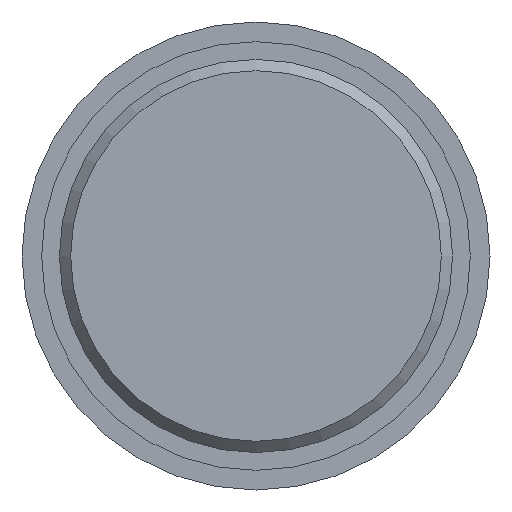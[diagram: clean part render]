
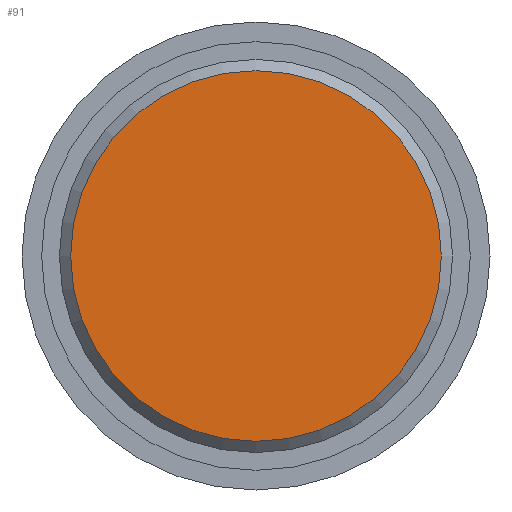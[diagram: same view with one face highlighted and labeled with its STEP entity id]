
A CAD part, front view. The second image highlights one B-rep face of the part: STEP entity #91.
In plain terms, the highlighted planar face has unit normal (0, -1, 0).
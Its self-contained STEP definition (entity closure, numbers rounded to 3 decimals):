
#91 = ADVANCED_FACE( '', ( #138 ), #139, .F. );
#138 = FACE_OUTER_BOUND( '', #193, .T. );
#139 = PLANE( '', #194 );
#193 = EDGE_LOOP( '', ( #308 ) );
#194 = AXIS2_PLACEMENT_3D( '', #309, #310, #311 );
#308 = ORIENTED_EDGE( '', *, *, #359, .T. );
#309 = CARTESIAN_POINT( '', ( 19.8, 0., 0. ) );
#310 = DIRECTION( '', ( 0., 1., 0. ) );
#311 = DIRECTION( '', ( 0., 0., 1. ) );
#359 = EDGE_CURVE( '', #411, #411, #412, .T. );
#411 = VERTEX_POINT( '', #485 );
#412 = CIRCLE( '', #486, 19.8 );
#485 = CARTESIAN_POINT( '', ( 0., 0., -19.8 ) );
#486 = AXIS2_PLACEMENT_3D( '', #538, #539, #540 );
#538 = CARTESIAN_POINT( '', ( 0., 0., 0. ) );
#539 = DIRECTION( '', ( 0., -1., 0. ) );
#540 = DIRECTION( '', ( 0., 0., -1. ) );
